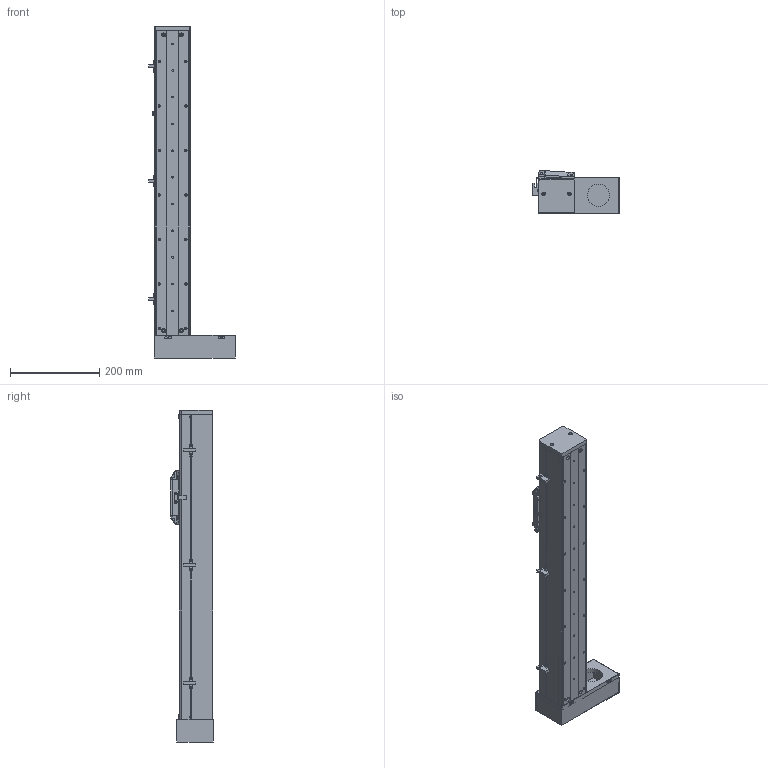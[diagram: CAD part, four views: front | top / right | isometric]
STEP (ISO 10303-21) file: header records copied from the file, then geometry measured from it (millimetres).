
FILE_DESCRIPTION (( 'STEP AP214' ), '1' );
FILE_NAME ('CF80-C-500-FWL.STEP', '2020-01-15T08:27:38', ( '微软用户' ), ( '微软中国' ), 'SwSTEP 2.0', 'SolidWorks 2016', '' );
FILE_SCHEMA (( 'AUTOMOTIVE_DESIGN' ));
Length unit declared in the file: millimetre
Products named in the file (16): 賑雄輸裔啣; CFN80傻嘐隅釱; CF80盓傅釱; EGR15絳寢-500; EGW15CA賑輸; CF80墙板-500; CF80菁釱-500; CF80-C-500-FWL; 嫖萇羲壽; 壽萇羲壽覜茼え; CF80-酘殏萇儂啣; 賑雄輸; CF80肮祭謫欶; 詩湍揤啣; CF80詩湍-500; CF80耜啣
Assembly tree (19 placements, depth 2):
  CF80-C-500-FWL
    CF80菁釱-500
    CF80墙板-500  x2
    EGW15CA賑輸
    EGR15絳寢-500
    CF80盓傅釱
    CFN80傻嘐隅釱
    賑雄輸裔啣
    CF80耜啣
    CF80詩湍-500
    詩湍揤啣  x2
    CF80肮祭謫欶
    賑雄輸
    CF80-酘殏萇儂啣
    壽萇羲壽覜茼え
    嫖萇羲壽  x3
Bounding box: 194.5 x 95.88 x 746 mm (x, y, z)
Volume: 1533857.1 mm3; surface area: 794020.1 mm2
Topology: 19 solids, 19 shells, 898 faces, 2546 edges, 1680 vertices
Faces by surface type: plane 473, cylinder 393, cone 20, bspline 12
Entity records: 29007 total; most frequent: CARTESIAN_POINT 6603, ORIENTED_EDGE 4490, DIRECTION 4441, EDGE_CURVE 2245, AXIS2_PLACEMENT_3D 1540, VERTEX_POINT 1490, LINE 1361, VECTOR 1361
